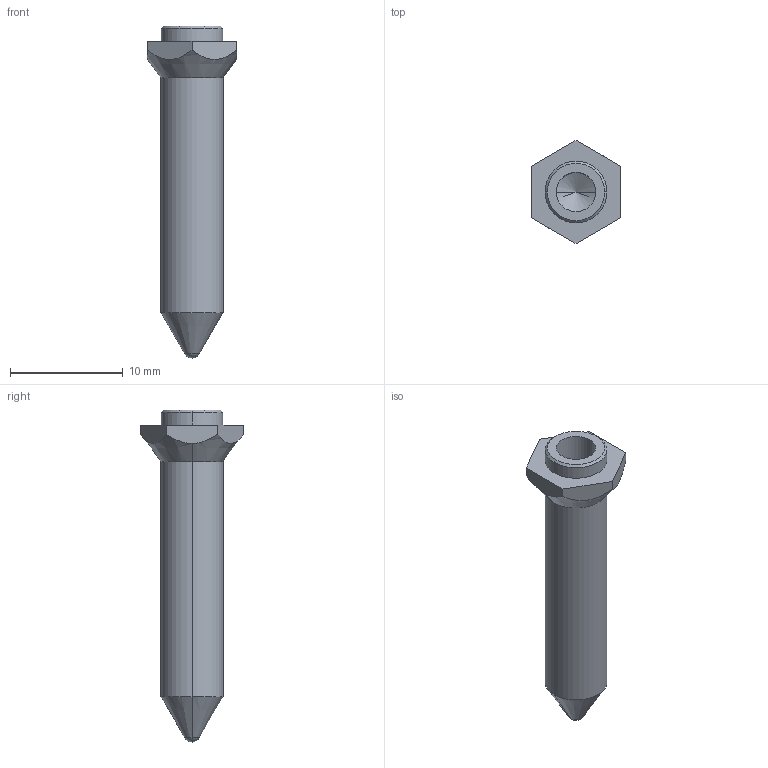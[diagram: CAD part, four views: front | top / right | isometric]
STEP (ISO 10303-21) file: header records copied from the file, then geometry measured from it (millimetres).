
FILE_DESCRIPTION((''),'2;1');
FILE_NAME('752341478','2017-02-21T',('rlalsangi'),(''),'PRO/ENGINEER BY PARAMETRIC TECHNOLOGY CORPORATION, 2012310','PRO/ENGINEER BY PARAMETRIC TECHNOLOGY CORPORATION, 2012310','');
FILE_SCHEMA(('CONFIG_CONTROL_DESIGN'));
Length unit declared in the file: millimetre
Products named in the file (1): 752341478
Bounding box: 7.94 x 9.17 x 29.49 mm (x, y, z)
Volume: 619.8 mm3; surface area: 678.8 mm2
Topology: 1 solids, 1 shells, 24 faces, 61 edges, 40 vertices
Faces by surface type: plane 8, cone 8, cylinder 6, sphere 2
Entity records: 775 total; most frequent: CARTESIAN_POINT 178, DIRECTION 119, ORIENTED_EDGE 104, EDGE_CURVE 52, AXIS2_PLACEMENT_3D 45, VERTEX_POINT 32, VECTOR 29, LINE 29
